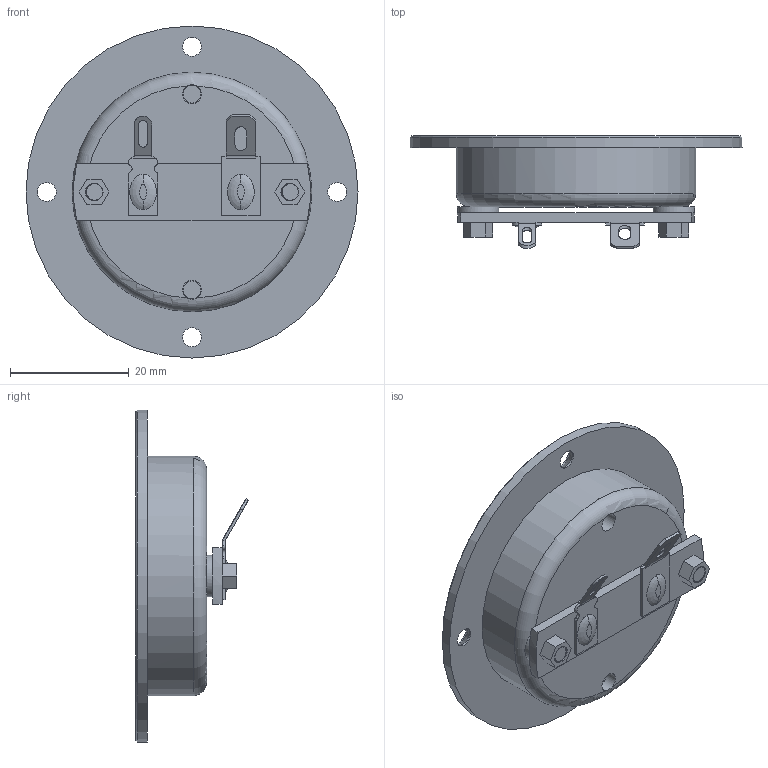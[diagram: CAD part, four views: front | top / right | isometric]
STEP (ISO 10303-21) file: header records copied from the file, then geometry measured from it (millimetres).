
FILE_DESCRIPTION(/* description */ (''),/* implementation_level */ '2;1');
FILE_NAME(/* name */ 'AMT Mini-8 v2.step',/* time_stamp */ '2025-06-06T10:46:14-04:00',/* author */ (''),/* organization */ (''),/* preprocessor_version */ 'ST-DEVELOPER v20.1',/* originating_system */ 'Autodesk Translation Framework v14.10.0.0',/* authorisation */ '');
FILE_SCHEMA (('AUTOMOTIVE_DESIGN { 1 0 10303 214 3 1 1 }'));
Products named in the file (2): AMT40-01-2022-616_ASM; YDT-4001-DAO-CIWANG_2_1_1
Assembly tree (1 placements, depth 2):
  AMT40-01-2022-616_ASM
    YDT-4001-DAO-CIWANG_2_1_1
Bounding box: 56 x 19.03 x 56 mm (x, y, z)
Volume: 14946 mm3; surface area: 14503.3 mm2
Topology: 3 solids, 3 shells, 707 faces, 2125 edges, 1427 vertices
Faces by surface type: cylinder 302, plane 278, bspline 104, cone 11, torus 10, sphere 2
Full cylindrical faces by diameter (mm): 2.9 x102, 3 x4, 3.2 x8, 5.2 x4, 5.3 x2, 5.5 x4, 7 x2, 36.4 x1, 40.4 x1, 56 x1
Entity records: 80577 total; most frequent: CARTESIAN_POINT 61552, ORIENTED_EDGE 4422, DIRECTION 3408, EDGE_CURVE 2211, VERTEX_POINT 1427, LINE 1186, VECTOR 1186, AXIS2_PLACEMENT_3D 1111
